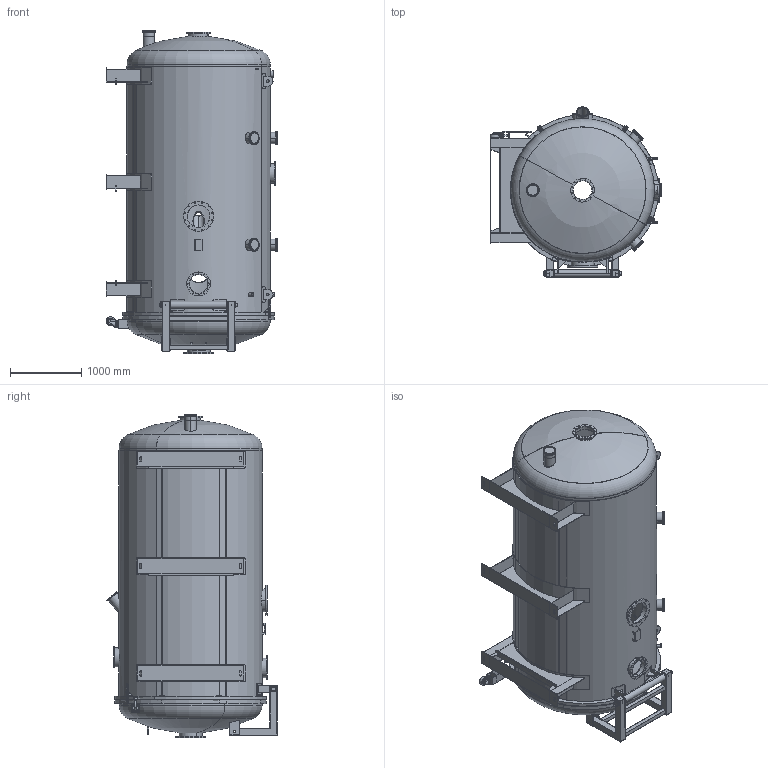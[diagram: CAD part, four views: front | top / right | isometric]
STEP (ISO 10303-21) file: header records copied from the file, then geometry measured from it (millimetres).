
FILE_DESCRIPTION(('CATIA V5 STEP Exchange','CAx-IF Rec.Pracs.--- Model Styling and Organization---1.5--- 2016-08-15','CAx-IF Rec.Pracs.---Supplemental Geometry---1.0---2011-11-01','CAx-IF Rec.Pracs.--- Composite Materials ---3.4---2017-06-13','CAx-IF Rec.Pracs.---Tessellated 3D Geometry---1.0---2015-12-17'),'2;1');
FILE_NAME('L:\Projekte\26K\26K_004_VAKUUMTANK_2026\SICHERUNG\2026_0810\26K_004_030_10_A_VAKUUMTANK\26K_004_030_10_A_VAKUUMTANK_2026_3D_2026_0901.stp','2026-09-01T08:11:50+00:00',('none'),('none'),'CATIA Version 5-6 Release 2024 SP3 HF4','CATIA V5 STEP AP242 v3','none');
FILE_SCHEMA(('AP242_MANAGED_MODEL_BASED_3D_ENGINEERING_MIM_LF {1 0 10303 442 1 1 4}'));
Length unit declared in the file: millimetre
Products named in the file (28): 26K_004_030_10_A_VAKUUMTANK_2026_3D; 26K_004_030_10_A_000_00_MONTAGE_010_030; 26K_006_030_10_A_axis_part; 26K_006_030_10_A_010_00_DECKEL; 26K_004_030_10_A_010_01_BODEN; 26K_004_030_10_A_010_04_GRIFF; 26K_004_030_10_A_010_06_PLATTE_RAD; 26K_004_030_10_A_010_06_LENKROLLE; 26K_004_030_10_A_010_02_PLATTE; 26K_004_030_10_A_010_03_PLATTE; 26K_006_030_10_A_020_00_BEHAELTER; 26K_006_030_10_A_020_01_00_BODEN; 26K_006_030_10_A_020_04_WINKEL; 26K_006_030_10_A_020_09_ISO_KF_16; 26K_006_030_10_A_020_10_ISO_KF_40; 26K_006_030_10_A_020_16_ISO_K_160; 26K_006_030_10_A_020_17_ISO_K_160; 26K_006_030_10_A_020_18_ISO_F_250_FLANSCH; 26K_006_030_10_A_020_19_ISO_K_250; 26K_006_030_10_A_030_00_SCHWEISSTEIL; 26K_006_030_10_A_400_00_SPANNER_851_2_700; 26K_004_030_10_A_040_00_SCHWEISSTEIL; 26K_004_030_10_A_040_01_PLATTE; 26K_004_030_10_A_040_03_PLATTE; 26K_004_030_10_A_040_02_PLATTE; 26K_004_030_10_A_040_04_PLATTE; 26K_004_030_10_A_80XX_00_ISO_K_ZENTRIERRING_AUSSEN_312 ZRA 160; 26K_004_030_10_A_8554_00_ISO_K_BLINDFLANSCH_320_FBL_160
Assembly tree (56 placements, depth 4):
  26K_004_030_10_A_VAKUUMTANK_2026_3D
    26K_004_030_10_A_000_00_MONTAGE_010_030
      26K_006_030_10_A_axis_part
      26K_006_030_10_A_010_00_DECKEL
        26K_004_030_10_A_010_01_BODEN
        26K_004_030_10_A_010_04_GRIFF  x2
        26K_004_030_10_A_010_06_PLATTE_RAD
        26K_004_030_10_A_010_06_LENKROLLE
        26K_004_030_10_A_010_02_PLATTE  x2
        26K_004_030_10_A_010_03_PLATTE  x2
      26K_006_030_10_A_020_00_BEHAELTER
        26K_006_030_10_A_020_01_00_BODEN
        26K_006_030_10_A_020_04_WINKEL  x2
        26K_006_030_10_A_020_09_ISO_KF_16
        26K_006_030_10_A_020_10_ISO_KF_40  x3
        26K_006_030_10_A_020_16_ISO_K_160  x6
        26K_006_030_10_A_020_17_ISO_K_160
        26K_006_030_10_A_020_18_ISO_F_250_FLANSCH  x2
        26K_006_030_10_A_020_19_ISO_K_250
      26K_006_030_10_A_030_00_SCHWEISSTEIL
      26K_006_030_10_A_400_00_SPANNER_851_2_700  x3
      26K_004_030_10_A_040_00_SCHWEISSTEIL  x3
        26K_004_030_10_A_040_01_PLATTE
        26K_004_030_10_A_040_03_PLATTE
        26K_004_030_10_A_040_02_PLATTE
        26K_004_030_10_A_040_04_PLATTE
    26K_004_030_10_A_80XX_00_ISO_K_ZENTRIERRING_AUSSEN_312 ZRA 160  x7
    26K_004_030_10_A_8554_00_ISO_K_BLINDFLANSCH_320_FBL_160  x7
Bounding box: 2413.9 x 2390.36 x 4544.87 mm (x, y, z)
Volume: 328387140.2 mm3; surface area: 82668550.3 mm2
Topology: 142 solids, 142 shells, 3468 faces, 8752 edges, 5598 vertices
Faces by surface type: cylinder 1689, plane 1206, torus 282, cone 269, sphere 22
Entity records: 55450 total; most frequent: CARTESIAN_POINT 14305, ORIENTED_EDGE 8838, DIRECTION 6636, EDGE_CURVE 4419, AXIS2_PLACEMENT_3D 3169, VERTEX_POINT 2860, EDGE_LOOP 2369, VECTOR 2104
